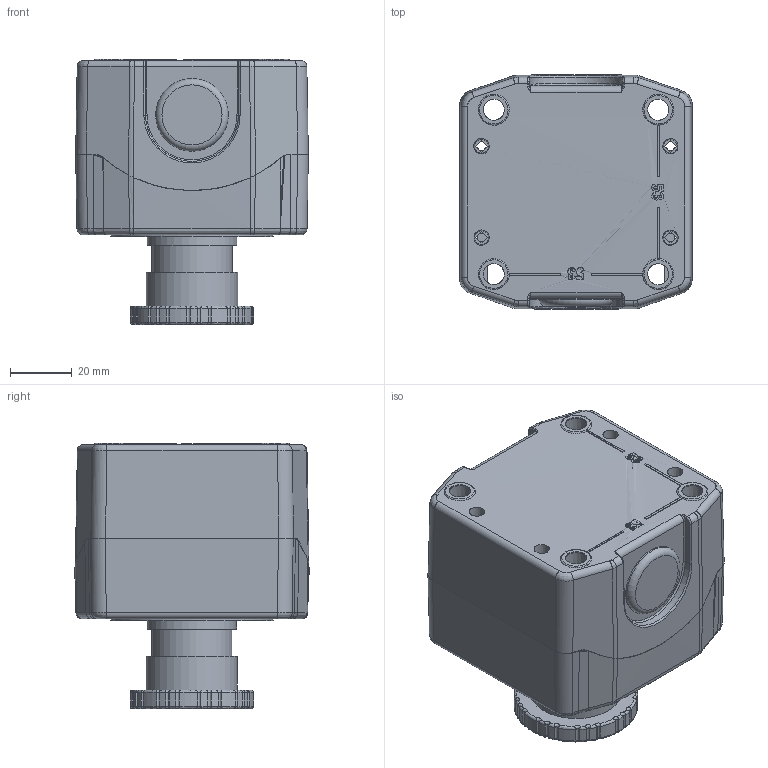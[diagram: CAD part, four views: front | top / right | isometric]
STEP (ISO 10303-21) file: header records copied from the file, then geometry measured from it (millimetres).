
FILE_DESCRIPTION (( 'STEP AP203' ), '1' );
FILE_NAME ('CB-ES.STEP', '2025-07-02T16:56:04', ( '' ), ( '' ), 'SwSTEP 2.0', 'SolidWorks 2024', '' );
FILE_SCHEMA (( 'CONFIG_CONTROL_DESIGN' ));
Length unit declared in the file: millimetre
Products named in the file (14): b1-bottom_¹w³]3]; b1A; A2-NUT; ES-MB; ES-22L; A2-CLIP; A2-10 NC; 91802A103_91802A103; A2-10 NO; CB-ES; A2-BODY; ES; b1-top_¹w³]3]
Assembly tree (17 placements, depth 4):
  CB-ES
    b1A
      b1-bottom_¹w³]3]
      b1-top_¹w³]3]
    ES-MB
      A2-BODY
      A2-CLIP
      A2-10 NO
        91802A103_91802A103  x2
      A2-10 NC  x2
        A2-10 NC
        91802A103_91802A103
      ES
      A2-NUT
    ES-22L
Bounding box: 75.38 x 75.89 x 85.95 mm (x, y, z)
Volume: 50946.7 mm3; surface area: 109704.6 mm2
Topology: 13 solids, 26 shells, 2063 faces, 5658 edges, 3696 vertices
Faces by surface type: plane 1130, cylinder 450, bspline 238, torus 151, cone 84, sphere 10
Full cylindrical faces by diameter (mm): 4.011 x4, 6.5 x4, 6.834 x4, 18.5 x1, 20 x2, 20.3 x6, 20.6 x1, 20.854 x2, 23.526 x1, 26 x1, 27.5 x1, 28.396 x1, 29 x1, 29.62 x1, 52.7 x1
Entity records: 74753 total; most frequent: CARTESIAN_POINT 31603, ORIENTED_EDGE 9427, DIRECTION 7264, EDGE_CURVE 4779, VERTEX_POINT 3147, LINE 2590, VECTOR 2590, AXIS2_PLACEMENT_3D 2337
